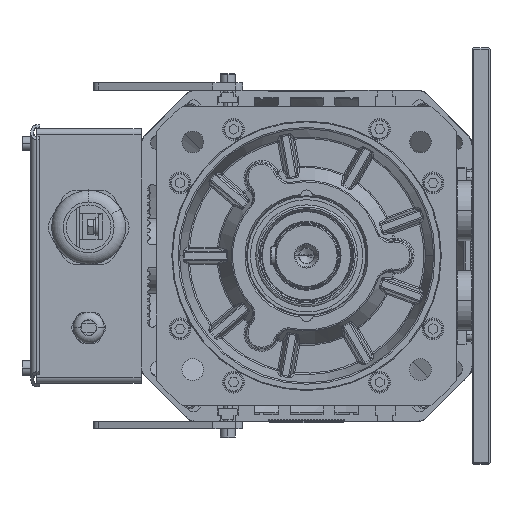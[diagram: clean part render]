
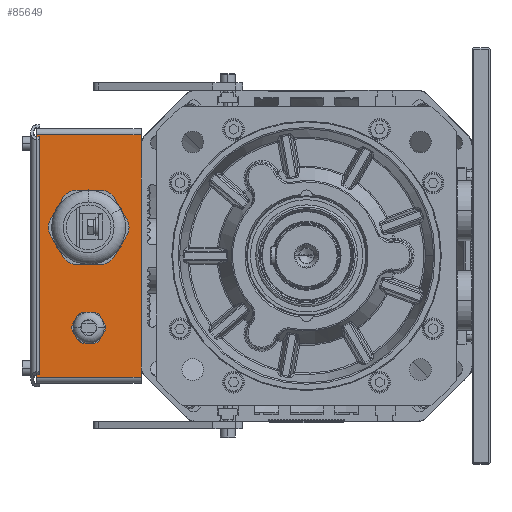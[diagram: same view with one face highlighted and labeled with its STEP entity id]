
A CAD part, left-side view. The second image highlights one B-rep face of the part: STEP entity #85649.
In plain terms, the highlighted planar face has unit normal (-1, 0, 0).
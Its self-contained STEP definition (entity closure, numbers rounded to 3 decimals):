
#83451=DIRECTION('',(0.,0.,1.));
#83452=VECTOR('',#83451,162.);
#83453=CARTESIAN_POINT('',(104.,110.5,-81.));
#83454=LINE('',#83453,#83452);
#83728=CARTESIAN_POINT('',(104.,145.5,-48.));
#83729=DIRECTION('',(-1.,0.,0.));
#83730=DIRECTION('',(0.,1.,0.));
#83731=AXIS2_PLACEMENT_3D('',#83728,#83729,#83730);
#83733=CARTESIAN_POINT('',(104.,145.5,-48.));
#83734=DIRECTION('',(-1.,0.,0.));
#83735=DIRECTION('',(0.,-1.,0.));
#83736=AXIS2_PLACEMENT_3D('',#83733,#83734,#83735);
#83738=CARTESIAN_POINT('',(104.,145.5,19.));
#83739=DIRECTION('',(-1.,0.,0.));
#83740=DIRECTION('',(0.,1.,0.));
#83741=AXIS2_PLACEMENT_3D('',#83738,#83739,#83740);
#83743=CARTESIAN_POINT('',(104.,145.5,19.));
#83744=DIRECTION('',(-1.,0.,0.));
#83745=DIRECTION('',(0.,-1.,0.));
#83746=AXIS2_PLACEMENT_3D('',#83743,#83744,#83745);
#83748=DIRECTION('',(0.,0.,1.));
#83749=VECTOR('',#83748,162.);
#83750=CARTESIAN_POINT('',(104.,180.5,-81.));
#83751=LINE('',#83750,#83749);
#84696=DIRECTION('',(0.,-1.,0.));
#84697=VECTOR('',#84696,70.);
#84698=CARTESIAN_POINT('',(104.,180.5,-81.));
#84699=LINE('',#84698,#84697);
#84716=DIRECTION('',(0.,1.,0.));
#84717=VECTOR('',#84716,70.);
#84718=CARTESIAN_POINT('',(104.,110.5,81.));
#84719=LINE('',#84718,#84717);
#85028=CARTESIAN_POINT('',(104.,155.5,-48.));
#85029=CARTESIAN_POINT('',(104.,135.5,-48.));
#85030=VERTEX_POINT('',#85028);
#85031=VERTEX_POINT('',#85029);
#85032=CARTESIAN_POINT('',(104.,170.5,19.));
#85033=CARTESIAN_POINT('',(104.,120.5,19.));
#85034=VERTEX_POINT('',#85032);
#85035=VERTEX_POINT('',#85033);
#85232=CARTESIAN_POINT('',(104.,110.5,-81.));
#85234=VERTEX_POINT('',#85232);
#85245=CARTESIAN_POINT('',(104.,110.5,81.));
#85247=VERTEX_POINT('',#85245);
#85264=CARTESIAN_POINT('',(104.,180.5,81.));
#85266=VERTEX_POINT('',#85264);
#85277=CARTESIAN_POINT('',(104.,180.5,-81.));
#85279=VERTEX_POINT('',#85277);
#85624=CARTESIAN_POINT('',(104.,110.5,-85.));
#85625=DIRECTION('',(-1.,0.,0.));
#85626=DIRECTION('',(0.,0.,1.));
#85627=AXIS2_PLACEMENT_3D('',#85624,#85625,#85626);
#85628=PLANE('',#85627);
#85630=ORIENTED_EDGE('',*,*,#85629,.F.);
#85631=ORIENTED_EDGE('',*,*,#85431,.F.);
#85633=ORIENTED_EDGE('',*,*,#85632,.F.);
#85634=ORIENTED_EDGE('',*,*,#85491,.T.);
#85635=EDGE_LOOP('',(#85630,#85631,#85633,#85634));
#85636=FACE_OUTER_BOUND('',#85635,.F.);
#85638=ORIENTED_EDGE('',*,*,#85637,.T.);
#85640=ORIENTED_EDGE('',*,*,#85639,.T.);
#85641=EDGE_LOOP('',(#85638,#85640));
#85642=FACE_BOUND('',#85641,.F.);
#85644=ORIENTED_EDGE('',*,*,#85643,.T.);
#85646=ORIENTED_EDGE('',*,*,#85645,.T.);
#85647=EDGE_LOOP('',(#85644,#85646));
#85648=FACE_BOUND('',#85647,.F.);
#85649=ADVANCED_FACE('',(#85636,#85642,#85648),#85628,.T.);
#83732=CIRCLE('',#83731,10.);
#83737=CIRCLE('',#83736,10.);
#83742=CIRCLE('',#83741,25.);
#83747=CIRCLE('',#83746,25.);
#85431=EDGE_CURVE('',#85234,#85247,#83454,.T.);
#85491=EDGE_CURVE('',#85279,#85266,#83751,.T.);
#85629=EDGE_CURVE('',#85247,#85266,#84719,.T.);
#85632=EDGE_CURVE('',#85279,#85234,#84699,.T.);
#85637=EDGE_CURVE('',#85034,#85035,#83742,.T.);
#85639=EDGE_CURVE('',#85035,#85034,#83747,.T.);
#85643=EDGE_CURVE('',#85030,#85031,#83732,.T.);
#85645=EDGE_CURVE('',#85031,#85030,#83737,.T.);
